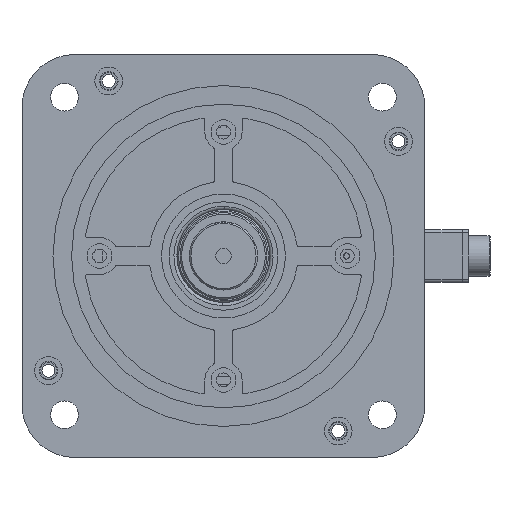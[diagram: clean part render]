
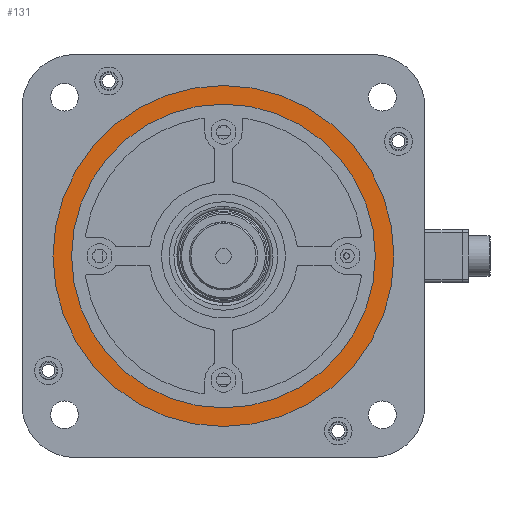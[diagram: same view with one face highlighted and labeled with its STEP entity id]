
A CAD part, left-side view. The second image highlights one B-rep face of the part: STEP entity #131.
In plain terms, the highlighted planar face has unit normal (-1, 0, 0).
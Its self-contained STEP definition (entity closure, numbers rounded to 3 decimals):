
#131 = ADVANCED_FACE ( 'NONE', ( #14581, #28985 ), #8343, .F. ) ;
#345 = AXIS2_PLACEMENT_3D ( 'NONE', #22181, #26821, #12706 ) ;
#548 = ORIENTED_EDGE ( 'NONE', *, *, #13083, .T. ) ;
#720 = CIRCLE ( 'NONE', #22688, 49. ) ;
#1523 = AXIS2_PLACEMENT_3D ( 'NONE', #23483, #5070, #18835 ) ;
#4061 = CIRCLE ( 'NONE', #1523, 49. ) ;
#5070 = DIRECTION ( 'NONE',  ( -1., 0., 0. ) ) ;
#6303 = CARTESIAN_POINT ( 'NONE',  ( 52., 49., 0. ) ) ;
#6356 = ORIENTED_EDGE ( 'NONE', *, *, #20187, .F. ) ;
#6380 = CARTESIAN_POINT ( 'NONE',  ( 52., 0., 0. ) ) ;
#6577 = DIRECTION ( 'NONE',  ( -1., 0., 0. ) ) ;
#7392 = EDGE_CURVE ( 'NONE', #20303, #16853, #27588, .T. ) ;
#7604 = CARTESIAN_POINT ( 'NONE',  ( 52., 0., 0. ) ) ;
#8343 = PLANE ( 'NONE',  #345 ) ;
#10382 = CARTESIAN_POINT ( 'NONE',  ( 52., 55., 0. ) ) ;
#12106 = CARTESIAN_POINT ( 'NONE',  ( 52., 0., 0. ) ) ;
#12236 = ORIENTED_EDGE ( 'NONE', *, *, #14339, .F. ) ;
#12706 = DIRECTION ( 'NONE',  ( 0., -1., 0. ) ) ;
#13083 = EDGE_CURVE ( 'NONE', #16853, #20303, #14289, .T. ) ;
#14289 = CIRCLE ( 'NONE', #14894, 55. ) ;
#14339 = EDGE_CURVE ( 'NONE', #25202, #17545, #4061, .T. ) ;
#14581 = FACE_BOUND ( 'NONE', #27215, .T. ) ;
#14894 = AXIS2_PLACEMENT_3D ( 'NONE', #7604, #18937, #23769 ) ;
#15509 = AXIS2_PLACEMENT_3D ( 'NONE', #6380, #6577, #27589 ) ;
#15685 = CARTESIAN_POINT ( 'NONE',  ( 52., -55., 0. ) ) ;
#16853 = VERTEX_POINT ( 'NONE', #15685 ) ;
#17545 = VERTEX_POINT ( 'NONE', #6303 ) ;
#18043 = EDGE_LOOP ( 'NONE', ( #29794, #548 ) ) ;
#18835 = DIRECTION ( 'NONE',  ( 0., 1., 0. ) ) ;
#18937 = DIRECTION ( 'NONE',  ( -1., 0., 0. ) ) ;
#19082 = DIRECTION ( 'NONE',  ( -1., 0., 0. ) ) ;
#20187 = EDGE_CURVE ( 'NONE', #17545, #25202, #720, .T. ) ;
#20303 = VERTEX_POINT ( 'NONE', #10382 ) ;
#22181 = CARTESIAN_POINT ( 'NONE',  ( 52., 0., 0. ) ) ;
#22688 = AXIS2_PLACEMENT_3D ( 'NONE', #12106, #19082, #28065 ) ;
#23483 = CARTESIAN_POINT ( 'NONE',  ( 52., 0., 0. ) ) ;
#23769 = DIRECTION ( 'NONE',  ( 0., 1., 0. ) ) ;
#25158 = CARTESIAN_POINT ( 'NONE',  ( 52., -49., 0. ) ) ;
#25202 = VERTEX_POINT ( 'NONE', #25158 ) ;
#26821 = DIRECTION ( 'NONE',  ( 1., 0., 0. ) ) ;
#27215 = EDGE_LOOP ( 'NONE', ( #6356, #12236 ) ) ;
#27588 = CIRCLE ( 'NONE', #15509, 55. ) ;
#27589 = DIRECTION ( 'NONE',  ( 0., 1., 0. ) ) ;
#28065 = DIRECTION ( 'NONE',  ( 0., 1., 0. ) ) ;
#28985 = FACE_OUTER_BOUND ( 'NONE', #18043, .T. ) ;
#29794 = ORIENTED_EDGE ( 'NONE', *, *, #7392, .T. ) ;
